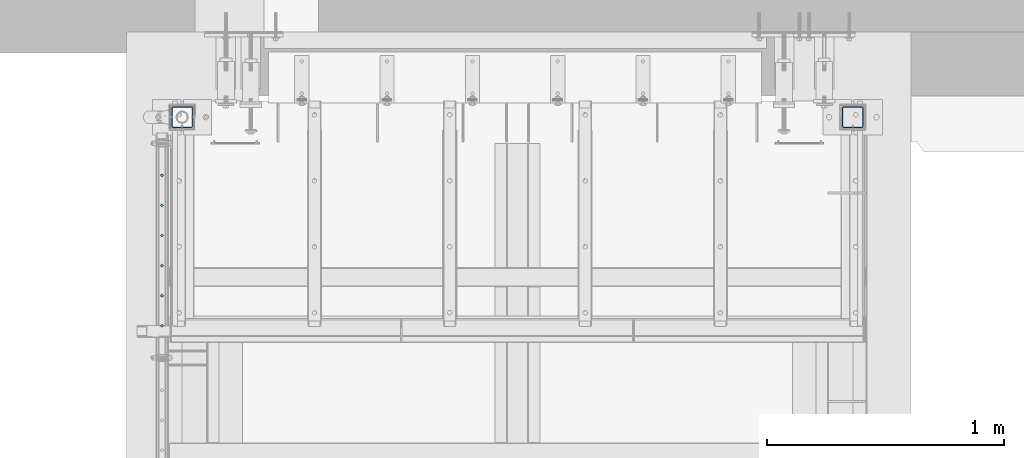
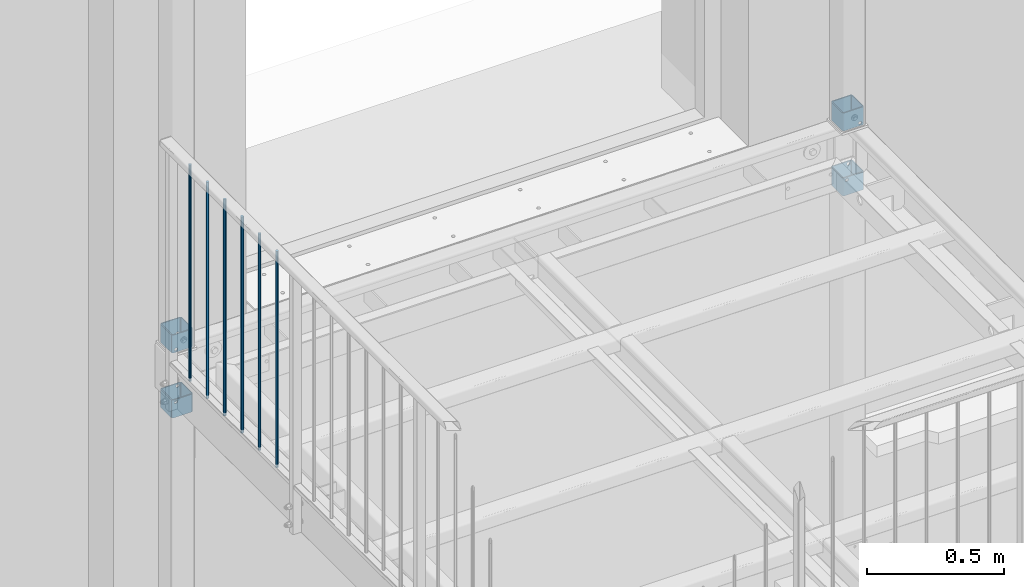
# One storey, part 6 of 116: 10 columns, 8 openings.
"""IFC2X3 building model written with IfcOpenShell, lengths in millimetres."""

from ifc_helpers import new_model, entity, si_unit, converted_unit, frame, frame_2d, origin, origin_with_axes, origin_2d, place, context, project, spatial, hollow_rectangle, circle, extrude, material, element, save


model = new_model("IFC2X3")

# Units and contexts
model_context = context("Model", 3, precision=1e-09, world=origin_with_axes())
ifc_project = project(units=[si_unit("LENGTHUNIT", "METRE", prefix="MILLI"), si_unit("AREAUNIT", "SQUARE_METRE"), si_unit("VOLUMEUNIT", "CUBIC_METRE"), converted_unit("PLANEANGLEUNIT", "DEGREE", entity("IfcPlaneAngleMeasure", 0.01745329), si_unit("PLANEANGLEUNIT", "RADIAN"), dimensions=[0, 0, 0, 0, 0, 0, 0])], contexts=[model_context])

# Site, building, storey
site_placement = place(None, origin_with_axes())
site = spatial("IfcSite", under=ifc_project, at=site_placement, Name="Site", CompositionType="ELEMENT")
building_placement = place(site_placement, origin_with_axes())
building = spatial("IfcBuilding", under=site, at=building_placement, Name="Struktur 1", CompositionType="ELEMENT")
storey_placement = place(building_placement, origin_with_axes())
storey = spatial("IfcBuildingStorey", under=building, at=storey_placement, Name="Default Storey", CompositionType="ELEMENT", Elevation=0.0)

# Column, openings
ifc_material = material(Name="S235JR")
column_1_placement = place(None, frame((55337.049134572, 11962.358883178, 85.0), z_axis=(0.0, 0.0, -1.0), x_axis=(0.0, 1.0, 0.0)))
column_1 = element("IfcColumn", 1, at=column_1_placement, inside=storey, material=ifc_material, Name="-", ObjectType="-", context=model_context, shape_type="SweptSolid", body=[
    extrude(hollow_rectangle(XDim=90.0, YDim=90.0, WallThickness=4.0, InnerFilletRadius=4.0, OuterFilletRadius=8.0, at=origin_2d()), origin(), (0.0, 0.0, 1.0), 80.0),
])
opening_1_placement = place(column_1_placement, frame((-40.5, -35.001, 68.0), z_axis=(1.0, 0.0, 0.0), x_axis=(0.0, 1.0, 0.0)))
element("IfcOpeningElement", 2, at=opening_1_placement, cuts=column_1, ObjectType="Opening", context=model_context, shape_type="SweptSolid", body=[
    extrude(circle(Radius=7.001, at=frame_2d((7.001, 0.0), x_axis=(1.0, 0.0))), origin(), (0.0, 0.0, -1.0), 5.0),
])
opening_2_placement = place(column_1_placement, frame((40.5, 35.001, 68.0), z_axis=(-1.0, 0.0, 0.0), x_axis=(0.0, -1.0, 0.0)))
element("IfcOpeningElement", 3, at=opening_2_placement, cuts=column_1, ObjectType="Opening", context=model_context, shape_type="SweptSolid", body=[
    extrude(circle(Radius=7.001, at=frame_2d((7.001, 0.0), x_axis=(1.0, 0.0))), origin(), (0.0, 0.0, -1.0), 5.0),
])

column_2_placement = place(None, frame((58167.049134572, 11962.358883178, 85.0), z_axis=(0.0, 0.0, 1.0), x_axis=(0.0, 1.0, 0.0)))
column_2 = element("IfcColumn", 4, at=column_2_placement, inside=storey, material=ifc_material, Name="-", ObjectType="-", context=model_context, shape_type="SweptSolid", body=[
    extrude(hollow_rectangle(XDim=90.0, YDim=90.0, WallThickness=4.0, InnerFilletRadius=4.0, OuterFilletRadius=8.0, at=origin_2d()), origin(), (0.0, 0.0, -1.0), 80.0),
])
opening_3_placement = place(column_2_placement, frame((-40.5, 0.0, 0.0), z_axis=(-1.0, 0.0, 0.0), x_axis=(0.0, 1.0, 0.0)))
element("IfcOpeningElement", 5, at=opening_3_placement, cuts=column_2, ObjectType="Opening", context=model_context, shape_type="SweptSolid", body=[
    extrude(circle(Radius=7.001, at=frame_2d((-28.0, 68.0), x_axis=(1.0, 0.0))), origin(), (0.0, 0.0, 1.0), 5.0),
])
opening_4_placement = place(column_2_placement, frame((40.5, 0.0, 0.0), z_axis=(1.0, 0.0, 0.0), x_axis=(0.0, -1.0, 0.0)))
element("IfcOpeningElement", 6, at=opening_4_placement, cuts=column_2, ObjectType="Opening", context=model_context, shape_type="SweptSolid", body=[
    extrude(circle(Radius=7.001, at=frame_2d((-28.0, 68.0), x_axis=(1.0, 0.0))), origin(), (0.0, 0.0, 1.0), 5.0),
])

column_3_placement = place(None, frame((58167.049134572, 11962.358883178, -285.0), z_axis=(0.0, 0.0, -1.0), x_axis=(0.0, 1.0, 0.0)))
column_3 = element("IfcColumn", 7, at=column_3_placement, inside=storey, material=ifc_material, Name="-", ObjectType="-", context=model_context, shape_type="SweptSolid", body=[
    extrude(hollow_rectangle(XDim=90.0, YDim=90.0, WallThickness=4.0, InnerFilletRadius=4.0, OuterFilletRadius=8.0, at=origin_2d()), origin(), (0.0, 0.0, -1.0), 80.0),
])
opening_5_placement = place(column_3_placement, frame((-40.5, 0.0, 0.0), z_axis=(-1.0, 0.0, 0.0), x_axis=(0.0, 1.0, 0.0)))
element("IfcOpeningElement", 8, at=opening_5_placement, cuts=column_3, ObjectType="Opening", context=model_context, shape_type="SweptSolid", body=[
    extrude(circle(Radius=7.001, at=frame_2d((-28.0, 68.0), x_axis=(1.0, 0.0))), origin(), (0.0, 0.0, 1.0), 5.0),
])
opening_6_placement = place(column_3_placement, frame((40.5, 0.0, 0.0), z_axis=(1.0, 0.0, 0.0), x_axis=(0.0, -1.0, 0.0)))
element("IfcOpeningElement", 9, at=opening_6_placement, cuts=column_3, ObjectType="Opening", context=model_context, shape_type="SweptSolid", body=[
    extrude(circle(Radius=7.001, at=frame_2d((-28.0, 68.0), x_axis=(1.0, 0.0))), origin(), (0.0, 0.0, 1.0), 5.0),
])

column_4_placement = place(None, frame((55337.049134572, 11962.358883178, -285.0), z_axis=(0.0, 0.0, -1.0), x_axis=(0.0, 1.0, 0.0)))
column_4 = element("IfcColumn", 10, at=column_4_placement, inside=storey, material=ifc_material, Name="-", ObjectType="-", context=model_context, shape_type="SweptSolid", body=[
    extrude(hollow_rectangle(XDim=90.0, YDim=90.0, WallThickness=4.0, InnerFilletRadius=4.0, OuterFilletRadius=8.0, at=origin_2d()), origin(), (0.0, 0.0, -1.0), 80.0),
])
opening_7_placement = place(column_4_placement, frame((-40.5, 0.0, 0.0), z_axis=(-1.0, 0.0, 0.0), x_axis=(0.0, 1.0, 0.0)))
element("IfcOpeningElement", 11, at=opening_7_placement, cuts=column_4, ObjectType="Opening", context=model_context, shape_type="SweptSolid", body=[
    extrude(circle(Radius=7.001, at=frame_2d((-28.0, 68.0), x_axis=(1.0, 0.0))), origin(), (0.0, 0.0, 1.0), 5.0),
])
opening_8_placement = place(column_4_placement, frame((40.5, 0.0, 0.0), z_axis=(1.0, 0.0, 0.0), x_axis=(0.0, -1.0, 0.0)))
element("IfcOpeningElement", 12, at=opening_8_placement, cuts=column_4, ObjectType="Opening", context=model_context, shape_type="SweptSolid", body=[
    extrude(circle(Radius=7.001, at=frame_2d((-28.0, 68.0), x_axis=(1.0, 0.0))), origin(), (0.0, 0.0, 1.0), 5.0),
])

# Columns
for number, where, z_axis, x_axis in (
    (13, (55252.049134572, 11716.501740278, 20.0), (0.0, 0.0, -1.0), (0.0, 1.0, 0.0)),
    (14, (55252.049134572, 11589.644597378, 20.0), (0.0, 0.0, -1.0), (0.0, 1.0, 0.0)),
    (15, (55252.049134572, 11462.787454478, 20.0), (0.0, 0.0, -1.0), (0.0, 1.0, 0.0)),
    (16, (55252.049134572, 11335.930311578, 20.0), (0.0, 0.0, -1.0), (0.0, 1.0, 0.0)),
    (17, (55252.049134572, 11209.073168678, 20.0), (0.0, 0.0, -1.0), (0.0, 1.0, 0.0)),
    (18, (55252.049134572, 11082.216025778, 20.0), (0.0, 0.0, -1.0), (0.0, 1.0, 0.0)),
):
    element("IfcColumn", number, at=place(None, frame(where, z_axis=z_axis, x_axis=x_axis)), inside=storey, material=ifc_material, Name="-", ObjectType="-", context=model_context, shape_type="SweptSolid", body=[
        extrude(circle(Radius=6.0, at=origin_2d()), origin(), (0.0, 0.0, -1.0), 965.0),
    ])

save(model, "model.ifc")
